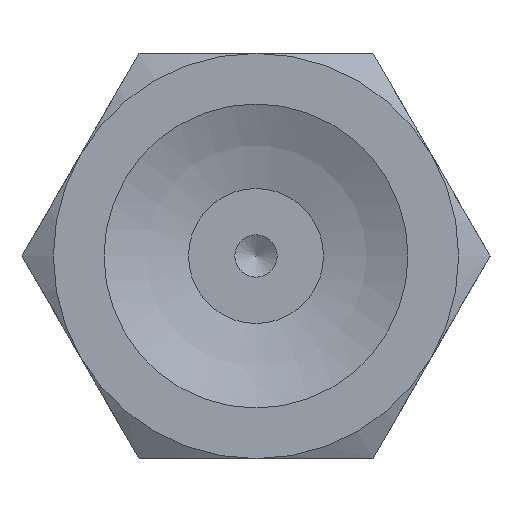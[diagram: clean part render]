
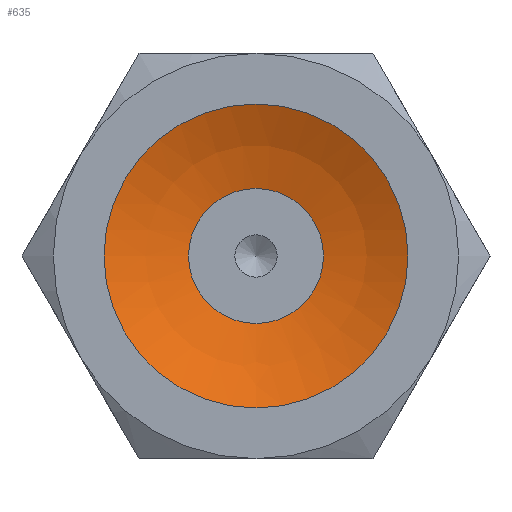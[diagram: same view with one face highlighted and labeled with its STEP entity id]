
A CAD part, front view. The second image highlights one B-rep face of the part: STEP entity #635.
In plain terms, the highlighted spherical face has radius 10.203 mm.
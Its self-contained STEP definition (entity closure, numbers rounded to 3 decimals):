
#635=ADVANCED_FACE('',(#955,#956),#957,.F.);
#955=FACE_OUTER_BOUND('',#1318,.T.);
#956=FACE_OUTER_BOUND('',#1319,.T.);
#957=SPHERICAL_SURFACE('',#1320,10.203);
#1318=EDGE_LOOP('',(#2190));
#1319=EDGE_LOOP('',(#2191));
#1320=AXIS2_PLACEMENT_3D('',#2192,#2193,#2194);
#2190=ORIENTED_EDGE('',*,*,#2561,.T.);
#2191=ORIENTED_EDGE('',*,*,#2550,.F.);
#2192=CARTESIAN_POINT('',(0.,-9.157,0.));
#2193=DIRECTION('',(0.0,-1.0,0.));
#2194=DIRECTION('',(1.0,0.0,0.0));
#2550=EDGE_CURVE('',#2946,#2946,#2947,.T.);
#2561=EDGE_CURVE('',#2968,#2968,#2969,.T.);
#2946=VERTEX_POINT('',#3980);
#2947=CIRCLE('',#3981,2.);
#2968=VERTEX_POINT('',#4002);
#2969=CIRCLE('',#4003,4.5);
#3980=CARTESIAN_POINT('',(0.0,0.848,-2.));
#3981=AXIS2_PLACEMENT_3D('',#4372,#4373,#4374);
#4002=CARTESIAN_POINT('',(0.0,0.,-4.5));
#4003=AXIS2_PLACEMENT_3D('',#4405,#4406,#4407);
#4372=CARTESIAN_POINT('',(0.0,0.848,0.0));
#4373=DIRECTION('',(0.0,-1.0,0.));
#4374=DIRECTION('',(0.0,0.,-1.0));
#4405=CARTESIAN_POINT('',(0.0,0.,0.0));
#4406=DIRECTION('',(0.0,-1.0,0.));
#4407=DIRECTION('',(0.0,0.,-1.0));
